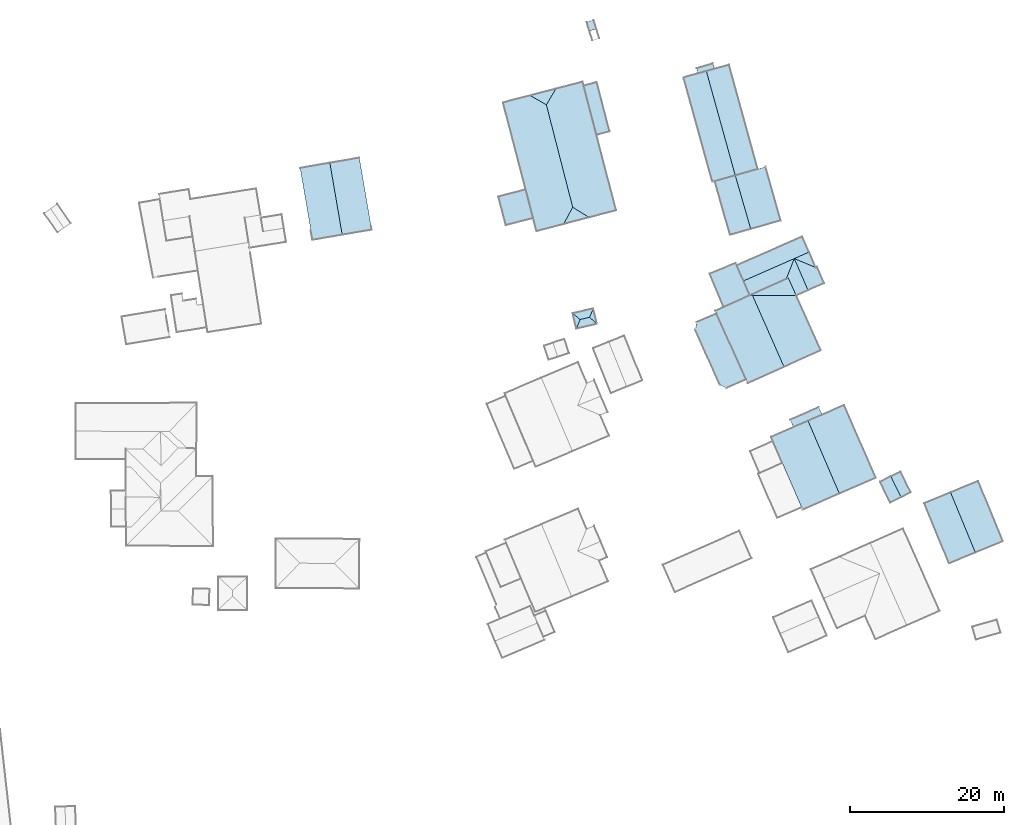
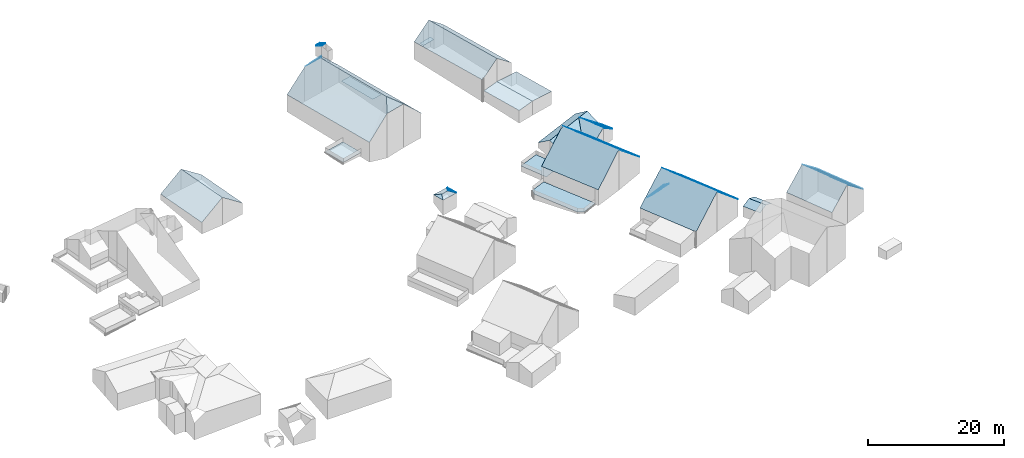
# Not in any storey, part 58 of 59: 35 roofs.
"""IFC4 building model written with IfcOpenShell, lengths in metres."""

from ifc_helpers import new_model, entity, si_unit, converted_unit, origin, place, context, subcontext, project, spatial, face_set, surface_model, element, save


model = new_model("IFC4")

# Units and contexts
model_context = context("Model", 3, precision=1e-05, world=origin())
body_context = subcontext(model_context, "Body", "Model", "MODEL_VIEW")
ifc_project = project(units=[converted_unit("PLANEANGLEUNIT", "DEGREE", entity("IfcRatioMeasure", 0.0174532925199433), si_unit("PLANEANGLEUNIT", "RADIAN"), dimensions=[0, 0, 0, 0, 0, 0, 0]), si_unit("AREAUNIT", "SQUARE_METRE"), si_unit("LENGTHUNIT", "METRE")], contexts=[model_context])

# Site, building
site_placement = place(None, origin())
site = spatial("IfcSite", under=ifc_project, at=site_placement, Name="_site")
building_1_placement = place(site_placement, origin())
building_1 = spatial("IfcBuilding", under=site, at=building_1_placement, Name="_building")

# Roofs
roof_1_placement = place(building_1_placement, origin())
element("IfcRoof", 1, at=roof_1_placement, inside=building_1, Name="Roof", PredefinedType="NOTDEFINED", context=body_context, shape_type="SurfaceModel", body=[
    surface_model("IfcFaceBasedSurfaceModel", [(259.12, 206.471, 222.97), (255.73, 205.07, 220.02), (258.93, 197.279, 220.02), (262.33, 198.68, 222.97)], [face_set([[[0, 1, 2, 3]]])]),
])
roof_2_placement = place(building_1_placement, origin())
element("IfcRoof", 2, at=roof_2_placement, inside=building_1, Name="Roof", PredefinedType="NOTDEFINED", context=body_context, shape_type="SurfaceModel", body=[
    surface_model("IfcFaceBasedSurfaceModel", [(262.33, 198.68, 222.97), (265.91, 200.16, 220.02), (262.71, 207.939, 220.02), (259.12, 206.471, 222.97)], [face_set([[[0, 1, 2, 3]]])]),
])

# Building
building_2_placement = place(site_placement, origin())
building_2 = spatial("IfcBuilding", under=site, at=building_2_placement, Name="_building")

# Roofs
roof_3_placement = place(building_2_placement, origin())
element("IfcRoof", 3, at=roof_3_placement, inside=building_2, Name="Roof", PredefinedType="NOTDEFINED", context=body_context, shape_type="SurfaceModel", body=[
    surface_model("IfcFaceBasedSurfaceModel", [(229.751, 230.478, 216.47), (233.13, 232.0, 216.47), (232.31, 233.869, 216.47), (231.43, 235.881, 216.47), (231.31, 236.18, 216.486), (227.93, 234.789, 216.486)], [face_set([[[0, 1, 2, 3, 4, 5]]])]),
])
roof_4_placement = place(building_2_placement, origin())
element("IfcRoof", 4, at=roof_4_placement, inside=building_2, Name="Roof", PredefinedType="NOTDEFINED", context=body_context, shape_type="SurfaceModel", body=[
    surface_model("IfcFaceBasedSurfaceModel", [(232.31, 233.869, 220.08), (233.13, 232.0, 218.62), (233.41, 232.119, 218.639), (237.83, 234.109, 218.95), (238.88, 236.76, 220.088)], [face_set([[[0, 1, 2, 3, 4]]])]),
])
roof_5_placement = place(building_2_placement, origin())
element("IfcRoof", 5, at=roof_5_placement, inside=building_2, Name="Roof", PredefinedType="NOTDEFINED", context=body_context, shape_type="SurfaceModel", body=[
    surface_model("IfcFaceBasedSurfaceModel", [(238.88, 236.76, 220.09), (240.66, 232.66, 220.11), (242.75, 233.57, 218.67), (241.83, 235.67, 218.61), (241.67, 235.6, 218.7)], [face_set([[[0, 1, 2, 3, 4]]])]),
])
roof_6_placement = place(building_2_placement, origin())
element("IfcRoof", 6, at=roof_6_placement, inside=building_2, Name="Roof", PredefinedType="NOTDEFINED", context=body_context, shape_type="SurfaceModel", body=[
    surface_model("IfcFaceBasedSurfaceModel", [(239.12, 231.98, 219.06), (238.11, 234.24, 219.06), (237.83, 234.109, 219.314), (233.41, 232.119, 223.3), (233.463, 231.999, 223.301)], [face_set([[[0, 1, 2, 3, 4]]])]),
])
roof_7_placement = place(building_2_placement, origin())
element("IfcRoof", 7, at=roof_7_placement, inside=building_2, Name="Roof", PredefinedType="NOTDEFINED", context=body_context, shape_type="SurfaceModel", body=[
    surface_model("IfcFaceBasedSurfaceModel", [(239.12, 231.98, 219.06), (240.66, 232.66, 220.11), (238.88, 236.76, 220.09), (237.83, 234.109, 218.95), (238.11, 234.24, 219.06)], [face_set([[[0, 1, 2, 3, 4]]])]),
])
roof_8_placement = place(building_2_placement, origin())
element("IfcRoof", 8, at=roof_8_placement, inside=building_2, Name="Roof", PredefinedType="NOTDEFINED", context=body_context, shape_type="SurfaceModel", body=[
    surface_model("IfcFaceBasedSurfaceModel", [(241.67, 235.6, 218.7), (240.8, 237.609, 220.09), (238.88, 236.76, 220.088)], [face_set([[[0, 1, 2]]])]),
])
roof_9_placement = place(building_2_placement, origin())
element("IfcRoof", 9, at=roof_9_placement, inside=building_2, Name="Roof", PredefinedType="NOTDEFINED", context=body_context, shape_type="SurfaceModel", body=[
    surface_model("IfcFaceBasedSurfaceModel", [(238.88, 236.76, 220.088), (240.8, 237.609, 220.09), (239.92, 239.6, 218.7), (231.43, 235.881, 218.74), (232.31, 233.869, 220.08)], [face_set([[[0, 1, 2, 3, 4]]])]),
])

# Building
building_3_placement = place(site_placement, origin())
building_3 = spatial("IfcBuilding", under=site, at=building_3_placement, Name="_building")

# Roofs
roof_10_placement = place(building_3_placement, origin())
element("IfcRoof", 10, at=roof_10_placement, inside=building_3, Name="Roof", PredefinedType="NOTDEFINED", context=body_context, shape_type="SurfaceModel", body=[
    surface_model("IfcFaceBasedSurfaceModel", [(244.72, 206.311, 223.29), (249.44, 208.359, 218.99), (245.35, 217.779, 218.99), (242.49, 216.529, 221.58), (240.66, 215.74, 223.23)], [face_set([[[0, 1, 2, 3, 4]]])]),
])
roof_11_placement = place(building_3_placement, origin())
element("IfcRoof", 11, at=roof_11_placement, inside=building_3, Name="Roof", PredefinedType="NOTDEFINED", context=body_context, shape_type="SurfaceModel", body=[
    surface_model("IfcFaceBasedSurfaceModel", [(238.78, 214.93, 219.6), (240.66, 215.74, 219.438), (242.49, 216.529, 219.28), (242.06, 217.5, 218.59), (238.36, 215.891, 218.62)], [face_set([[[0, 1, 2, 3, 4]]])]),
])
roof_12_placement = place(building_3_placement, origin())
element("IfcRoof", 12, at=roof_12_placement, inside=building_3, Name="Roof", PredefinedType="NOTDEFINED", context=body_context, shape_type="SurfaceModel", body=[
    surface_model("IfcFaceBasedSurfaceModel", [(239.83, 204.539, 218.99), (239.96, 204.24, 218.99), (244.72, 206.311, 223.29), (240.66, 215.74, 223.23), (238.78, 214.93, 221.57), (235.87, 213.66, 218.99), (237.34, 210.27, 218.99)], [face_set([[[0, 1, 2, 3, 4, 5, 6]]])]),
])

# Building
building_4_placement = place(site_placement, origin())
building_4 = spatial("IfcBuilding", under=site, at=building_4_placement, Name="_building")

# Roofs
roof_13_placement = place(building_4_placement, origin())
element("IfcRoof", 13, at=roof_13_placement, inside=building_4, Name="Roof", PredefinedType="NOTDEFINED", context=body_context, shape_type="SurfaceModel", body=[
    surface_model("IfcFaceBasedSurfaceModel", [(252.71, 205.85, 218.37), (253.98, 206.471, 217.85), (252.65, 209.16, 217.85), (251.39, 208.539, 218.37)], [face_set([[[0, 1, 2, 3]]])]),
])
roof_14_placement = place(building_4_placement, origin())
element("IfcRoof", 14, at=roof_14_placement, inside=building_4, Name="Roof", PredefinedType="NOTDEFINED", context=body_context, shape_type="SurfaceModel", body=[
    surface_model("IfcFaceBasedSurfaceModel", [(251.39, 208.539, 218.37), (249.99, 207.85, 217.85), (251.32, 205.16, 217.85), (252.71, 205.85, 218.37)], [face_set([[[0, 1, 2, 3]]])]),
])

# Building
building_5_placement = place(site_placement, origin())
building_5 = spatial("IfcBuilding", under=site, at=building_5_placement, Name="_building")

# Roofs
roof_15_placement = place(building_5_placement, origin())
element("IfcRoof", 15, at=roof_15_placement, inside=building_5, Name="Roof", PredefinedType="NOTDEFINED", context=body_context, shape_type="SurfaceModel", body=[
    surface_model("IfcFaceBasedSurfaceModel", [(233.463, 231.999, 223.301), (237.55, 222.73, 223.34), (242.32, 224.869, 219.06), (239.12, 231.98, 219.06)], [face_set([[[0, 1, 2, 3]]])]),
])
roof_16_placement = place(building_5_placement, origin())
element("IfcRoof", 16, at=roof_16_placement, inside=building_5, Name="Roof", PredefinedType="NOTDEFINED", context=body_context, shape_type="SurfaceModel", body=[
    surface_model("IfcFaceBasedSurfaceModel", [(232.63, 221.119, 216.465), (228.81, 229.631, 216.465), (226.27, 228.539, 216.465), (226.06, 227.539, 216.465), (229.24, 220.42, 216.465), (230.1, 219.99, 216.465)], [face_set([[[0, 1, 2, 3, 4, 5]]])]),
])
roof_17_placement = place(building_5_placement, origin())
element("IfcRoof", 17, at=roof_17_placement, inside=building_5, Name="Roof", PredefinedType="NOTDEFINED", context=body_context, shape_type="SurfaceModel", body=[
    surface_model("IfcFaceBasedSurfaceModel", [(233.463, 231.999, 223.301), (233.13, 232.0, 223.06), (229.751, 230.478, 220.043), (228.65, 229.98, 219.06), (228.81, 229.631, 219.06), (232.63, 221.119, 219.06), (232.86, 220.609, 219.06), (237.55, 222.73, 223.34)], [face_set([[[0, 1, 2, 3, 4, 5, 6, 7]]])]),
])

# Building
building_6_placement = place(site_placement, origin())
building_6 = spatial("IfcBuilding", under=site, at=building_6_placement, Name="_building")

# Roofs
roof_18_placement = place(building_6_placement, origin())
element("IfcRoof", 18, at=roof_18_placement, inside=building_6, Name="Roof", PredefinedType="NOTDEFINED", context=body_context, shape_type="SurfaceModel", body=[
    surface_model("IfcFaceBasedSurfaceModel", [(180.33, 239.84, 224.44), (184.15, 240.49, 221.71), (182.55, 249.811, 221.71), (178.73, 249.15, 224.44)], [face_set([[[0, 1, 2, 3]]])]),
])
roof_19_placement = place(building_6_placement, origin())
element("IfcRoof", 19, at=roof_19_placement, inside=building_6, Name="Roof", PredefinedType="NOTDEFINED", context=body_context, shape_type="SurfaceModel", body=[
    surface_model("IfcFaceBasedSurfaceModel", [(178.73, 249.15, 224.44), (174.88, 248.49, 221.71), (176.48, 239.17, 221.71), (180.33, 239.84, 224.44)], [face_set([[[0, 1, 2, 3]]])]),
])

# Building
building_7_placement = place(site_placement, origin())
building_7 = spatial("IfcBuilding", under=site, at=building_7_placement, Name="_building")

# Roofs
roof_20_placement = place(building_7_placement, origin())
element("IfcRoof", 20, at=roof_20_placement, inside=building_7, Name="Roof", PredefinedType="NOTDEFINED", context=body_context, shape_type="SurfaceModel", body=[
    surface_model("IfcFaceBasedSurfaceModel", [(212.36, 229.16, 220.91), (212.85, 230.289, 220.64), (210.19, 229.67, 220.66), (211.14, 228.869, 220.91)], [face_set([[[0, 1, 2, 3]]])]),
])
roof_21_placement = place(building_7_placement, origin())
element("IfcRoof", 21, at=roof_21_placement, inside=building_7, Name="Roof", PredefinedType="NOTDEFINED", context=body_context, shape_type="SurfaceModel", body=[
    surface_model("IfcFaceBasedSurfaceModel", [(211.14, 228.869, 220.91), (210.19, 229.67, 220.66), (210.66, 227.67, 220.72)], [face_set([[[0, 1, 2]]])]),
])
roof_22_placement = place(building_7_placement, origin())
element("IfcRoof", 22, at=roof_22_placement, inside=building_7, Name="Roof", PredefinedType="NOTDEFINED", context=body_context, shape_type="SurfaceModel", body=[
    surface_model("IfcFaceBasedSurfaceModel", [(213.32, 228.301, 220.7), (212.85, 230.289, 220.64), (212.36, 229.16, 220.91)], [face_set([[[0, 1, 2]]])]),
])
roof_23_placement = place(building_7_placement, origin())
element("IfcRoof", 23, at=roof_23_placement, inside=building_7, Name="Roof", PredefinedType="NOTDEFINED", context=body_context, shape_type="SurfaceModel", body=[
    surface_model("IfcFaceBasedSurfaceModel", [(210.66, 227.67, 220.72), (213.32, 228.301, 220.7), (212.36, 229.16, 220.91), (211.14, 228.869, 220.91)], [face_set([[[0, 1, 2, 3]]])]),
])

# Building
building_8_placement = place(site_placement, origin())
building_8 = spatial("IfcBuilding", under=site, at=building_8_placement, Name="_building")

# Roofs
roof_24_placement = place(building_8_placement, origin())
element("IfcRoof", 24, at=roof_24_placement, inside=building_8, Name="Roof", PredefinedType="NOTDEFINED", context=body_context, shape_type="SurfaceModel", body=[
    surface_model("IfcFaceBasedSurfaceModel", [(231.237, 247.52, 226.83), (234.16, 248.35, 224.55), (230.43, 261.85, 224.5), (228.56, 261.33, 225.99), (227.49, 261.03, 226.83)], [face_set([[[0, 1, 2, 3, 4]]])]),
])
roof_25_placement = place(building_8_placement, origin())
element("IfcRoof", 25, at=roof_25_placement, inside=building_8, Name="Roof", PredefinedType="NOTDEFINED", context=body_context, shape_type="SurfaceModel", body=[
    surface_model("IfcFaceBasedSurfaceModel", [(233.24, 240.59, 222.69), (237.13, 241.689, 222.4), (235.16, 248.631, 222.43), (234.16, 248.35, 222.49), (231.237, 247.52, 222.69)], [face_set([[[0, 1, 2, 3, 4]]])]),
])
roof_26_placement = place(building_8_placement, origin())
element("IfcRoof", 26, at=roof_26_placement, inside=building_8, Name="Roof", PredefinedType="NOTDEFINED", context=body_context, shape_type="SurfaceModel", body=[
    surface_model("IfcFaceBasedSurfaceModel", [(231.237, 247.52, 222.69), (228.6, 246.77, 222.42), (230.57, 239.83, 222.4), (233.24, 240.59, 222.69)], [face_set([[[0, 1, 2, 3]]])]),
])
roof_27_placement = place(building_8_placement, origin())
element("IfcRoof", 27, at=roof_27_placement, inside=building_8, Name="Roof", PredefinedType="NOTDEFINED", context=body_context, shape_type="SurfaceModel", body=[
    surface_model("IfcFaceBasedSurfaceModel", [(226.44, 260.74, 222.79), (227.49, 261.03, 222.79), (228.56, 261.33, 222.79), (228.35, 262.029, 222.9), (226.24, 261.4, 222.9)], [face_set([[[0, 1, 2, 3, 4]]])]),
])
roof_28_placement = place(building_8_placement, origin())
element("IfcRoof", 28, at=roof_28_placement, inside=building_8, Name="Roof", PredefinedType="NOTDEFINED", context=body_context, shape_type="SurfaceModel", body=[
    surface_model("IfcFaceBasedSurfaceModel", [(227.49, 261.03, 226.83), (226.44, 260.74, 225.99), (224.54, 260.211, 224.46), (228.3, 246.68, 224.52), (228.6, 246.77, 224.76), (231.237, 247.52, 226.83)], [face_set([[[0, 1, 2, 3, 4, 5]]])]),
])

# Building
building_9_placement = place(site_placement, origin())
building_9 = spatial("IfcBuilding", under=site, at=building_9_placement, Name="_building")

# Roof
roof_29_placement = place(building_9_placement, origin())
element("IfcRoof", 29, at=roof_29_placement, inside=building_9, Name="Roof", PredefinedType="NOTDEFINED", context=body_context, shape_type="SurfaceModel", body=[
    surface_model("IfcFaceBasedSurfaceModel", [(213.25, 266.5, 224.32), (212.89, 267.66, 223.81), (212.0, 267.381, 223.84), (212.36, 266.23, 224.33)], [face_set([[[0, 1, 2, 3]]])]),
])

# Building
building_10_placement = place(site_placement, origin())
building_10 = spatial("IfcBuilding", under=site, at=building_10_placement, Name="_building")

# Roofs
roof_30_placement = place(building_10_placement, origin())
element("IfcRoof", 30, at=roof_30_placement, inside=building_10, Name="Roof", PredefinedType="NOTDEFINED", context=body_context, shape_type="SurfaceModel", body=[
    surface_model("IfcFaceBasedSurfaceModel", [(210.18, 243.41, 229.87), (212.31, 242.09, 228.61), (215.81, 243.0, 225.21), (211.48, 259.65, 225.17), (207.99, 258.74, 228.61), (206.77, 256.68, 229.9)], [face_set([[[0, 1, 2, 3, 4, 5]]])]),
])
roof_31_placement = place(building_10_placement, origin())
element("IfcRoof", 31, at=roof_31_placement, inside=building_10, Name="Roof", PredefinedType="NOTDEFINED", context=body_context, shape_type="SurfaceModel", body=[
    surface_model("IfcFaceBasedSurfaceModel", [(204.11, 245.699, 222.53), (200.57, 244.779, 222.53), (201.53, 241.08, 222.53), (205.07, 242.0, 222.53)], [face_set([[[0, 1, 2, 3]]])]),
])
roof_32_placement = place(building_10_placement, origin())
element("IfcRoof", 32, at=roof_32_placement, inside=building_10, Name="Roof", PredefinedType="NOTDEFINED", context=body_context, shape_type="SurfaceModel", body=[
    surface_model("IfcFaceBasedSurfaceModel", [(213.27, 252.779, 222.59), (214.97, 253.221, 222.59), (213.31, 259.59, 222.59), (211.61, 259.15, 222.59)], [face_set([[[0, 1, 2, 3]]])]),
])
roof_33_placement = place(building_10_placement, origin())
element("IfcRoof", 33, at=roof_33_placement, inside=building_10, Name="Roof", PredefinedType="NOTDEFINED", context=body_context, shape_type="SurfaceModel", body=[
    surface_model("IfcFaceBasedSurfaceModel", [(209.0, 241.221, 228.57), (212.31, 242.09, 228.61), (210.18, 243.41, 229.87)], [face_set([[[0, 1, 2]]])]),
])
roof_34_placement = place(building_10_placement, origin())
element("IfcRoof", 34, at=roof_34_placement, inside=building_10, Name="Roof", PredefinedType="NOTDEFINED", context=body_context, shape_type="SurfaceModel", body=[
    surface_model("IfcFaceBasedSurfaceModel", [(207.99, 258.74, 228.61), (204.67, 257.881, 228.33), (206.77, 256.68, 229.9)], [face_set([[[0, 1, 2]]])]),
])
roof_35_placement = place(building_10_placement, origin())
element("IfcRoof", 35, at=roof_35_placement, inside=building_10, Name="Roof", PredefinedType="NOTDEFINED", context=body_context, shape_type="SurfaceModel", body=[
    surface_model("IfcFaceBasedSurfaceModel", [(206.77, 256.68, 229.9), (204.67, 257.881, 228.33), (201.17, 256.971, 225.14), (205.51, 240.311, 225.18), (209.0, 241.221, 228.57), (210.18, 243.41, 229.87)], [face_set([[[0, 1, 2, 3, 4, 5]]])]),
])

save(model, "model.ifc")
